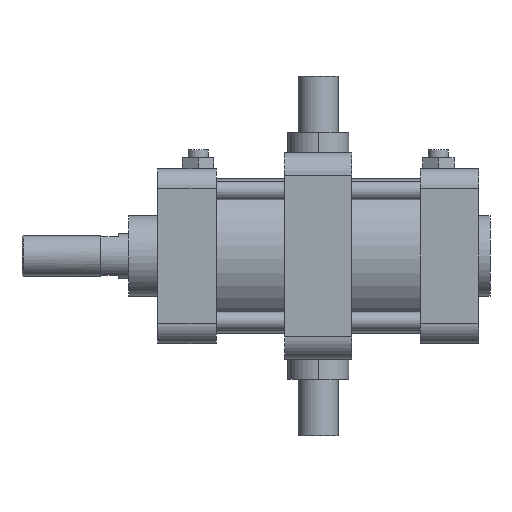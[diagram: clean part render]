
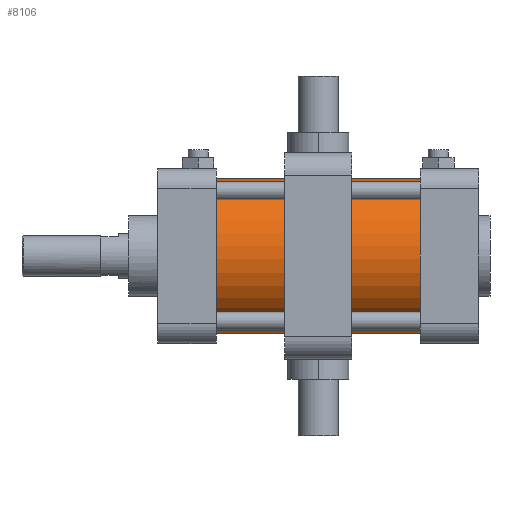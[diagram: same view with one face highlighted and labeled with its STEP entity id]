
A CAD part, front view. The second image highlights one B-rep face of the part: STEP entity #8106.
In plain terms, the highlighted cylindrical face has radius 34.5 mm (diameter 69 mm), a partial arc.
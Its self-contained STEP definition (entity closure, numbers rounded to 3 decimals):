
#69 = CARTESIAN_POINT ( 'NONE',  ( -29.1, 0., 0. ) ) ;
#262 = EDGE_LOOP ( 'NONE', ( #761, #7104, #623, #904 ) ) ;
#368 = CARTESIAN_POINT ( 'NONE',  ( -29.1, 0., -34.5 ) ) ;
#603 = CARTESIAN_POINT ( 'NONE',  ( 45.5, 0., 0. ) ) ;
#623 = ORIENTED_EDGE ( 'NONE', *, *, #1563, .T. ) ;
#761 = ORIENTED_EDGE ( 'NONE', *, *, #2791, .F. ) ;
#904 = ORIENTED_EDGE ( 'NONE', *, *, #7684, .F. ) ;
#1563 = EDGE_CURVE ( 'NONE', #7268, #8459, #7980, .T. ) ;
#1907 = VERTEX_POINT ( 'NONE', #6314 ) ;
#1982 = AXIS2_PLACEMENT_3D ( 'NONE', #6836, #2976, #2373 ) ;
#2142 = AXIS2_PLACEMENT_3D ( 'NONE', #603, #6762, #7938 ) ;
#2373 = DIRECTION ( 'NONE',  ( 0., 0., 1. ) ) ;
#2431 = CARTESIAN_POINT ( 'NONE',  ( -45.5, 0., 34.5 ) ) ;
#2791 = EDGE_CURVE ( 'NONE', #1907, #8900, #2810, .T. ) ;
#2807 = FACE_OUTER_BOUND ( 'NONE', #262, .T. ) ;
#2810 = LINE ( 'NONE', #368, #4850 ) ;
#2976 = DIRECTION ( 'NONE',  ( -1., 0., 0. ) ) ;
#3551 = VECTOR ( 'NONE', #6665, 1000. ) ;
#3955 = CIRCLE ( 'NONE', #1982, 34.5 ) ;
#4253 = DIRECTION ( 'NONE',  ( 0., 0., 1. ) ) ;
#4342 = AXIS2_PLACEMENT_3D ( 'NONE', #69, #8122, #4253 ) ;
#4850 = VECTOR ( 'NONE', #4973, 1000. ) ;
#4973 = DIRECTION ( 'NONE',  ( -1., 0., 0. ) ) ;
#5266 = CYLINDRICAL_SURFACE ( 'NONE', #4342, 34.5 ) ;
#5927 = CARTESIAN_POINT ( 'NONE',  ( -45.5, 0., -34.5 ) ) ;
#6314 = CARTESIAN_POINT ( 'NONE',  ( 45.5, 0., -34.5 ) ) ;
#6386 = CIRCLE ( 'NONE', #2142, 34.5 ) ;
#6665 = DIRECTION ( 'NONE',  ( -1., 0., 0. ) ) ;
#6708 = EDGE_CURVE ( 'NONE', #1907, #7268, #6386, .T. ) ;
#6762 = DIRECTION ( 'NONE',  ( -1., 0., 0. ) ) ;
#6836 = CARTESIAN_POINT ( 'NONE',  ( -45.5, 0., 0. ) ) ;
#7050 = CARTESIAN_POINT ( 'NONE',  ( 45.5, 0., 34.5 ) ) ;
#7104 = ORIENTED_EDGE ( 'NONE', *, *, #6708, .T. ) ;
#7268 = VERTEX_POINT ( 'NONE', #7050 ) ;
#7684 = EDGE_CURVE ( 'NONE', #8900, #8459, #3955, .T. ) ;
#7688 = CARTESIAN_POINT ( 'NONE',  ( -29.1, 0., 34.5 ) ) ;
#7938 = DIRECTION ( 'NONE',  ( 0., 0., 1. ) ) ;
#7980 = LINE ( 'NONE', #7688, #3551 ) ;
#8106 = ADVANCED_FACE ( 'NONE', ( #2807 ), #5266, .T. ) ;
#8122 = DIRECTION ( 'NONE',  ( -1., 0., 0. ) ) ;
#8459 = VERTEX_POINT ( 'NONE', #2431 ) ;
#8900 = VERTEX_POINT ( 'NONE', #5927 ) ;
